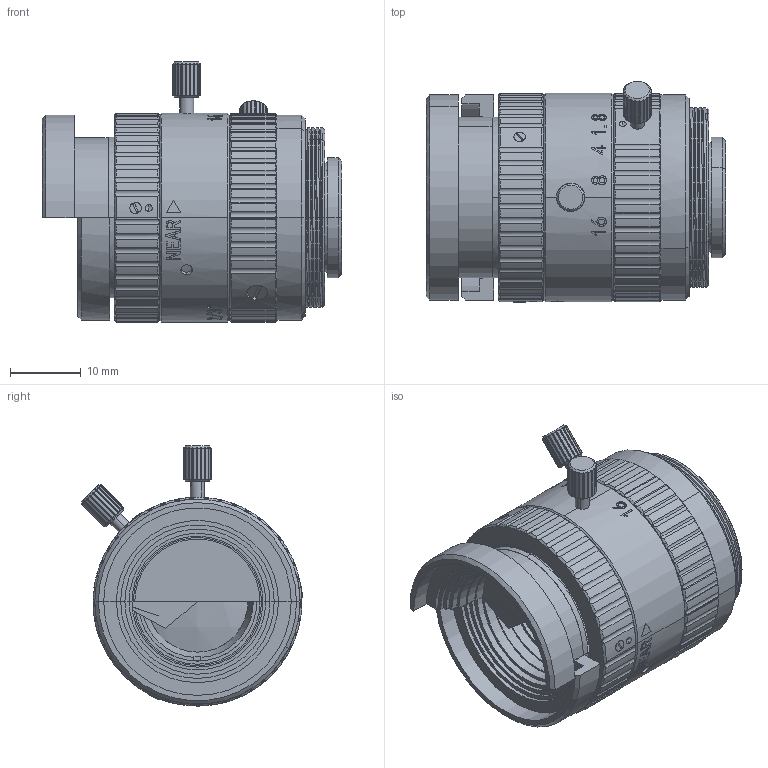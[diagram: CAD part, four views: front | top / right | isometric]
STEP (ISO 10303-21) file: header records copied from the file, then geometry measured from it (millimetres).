
FILE_DESCRIPTION (( 'STEP AP214' ), '1' );
FILE_NAME ('導俋夤2518FARandNEAR.STEP', '2020-02-21T01:43:46', ( '' ), ( '' ), 'SwSTEP 2.0', 'SolidWorks 2019', '' );
FILE_SCHEMA (( 'AUTOMOTIVE_DESIGN' ));
Length unit declared in the file: millimetre
Products named in the file (1): 導俋夤2518FARandNEAR
Bounding box: 42.32 x 31.22 x 36.75 mm (x, y, z)
Volume: 20756.2 mm3; surface area: 8869.6 mm2
Topology: 2 solids, 5 shells, 975 faces, 2724 edges, 1804 vertices
Faces by surface type: cylinder 384, plane 362, bspline 125, cone 98, sphere 6
Entity records: 58343 total; most frequent: CARTESIAN_POINT 24402, ORIENTED_EDGE 5436, DIRECTION 4039, EDGE_CURVE 2718, VERTEX_POINT 1803, AXIS2_PLACEMENT_3D 1509, EDGE_LOOP 1033, LINE 1021
